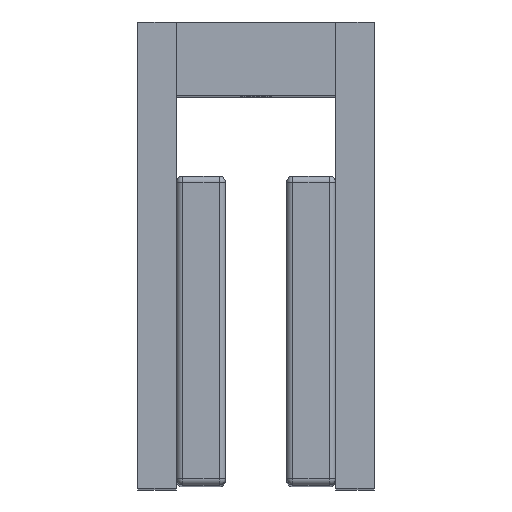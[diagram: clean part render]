
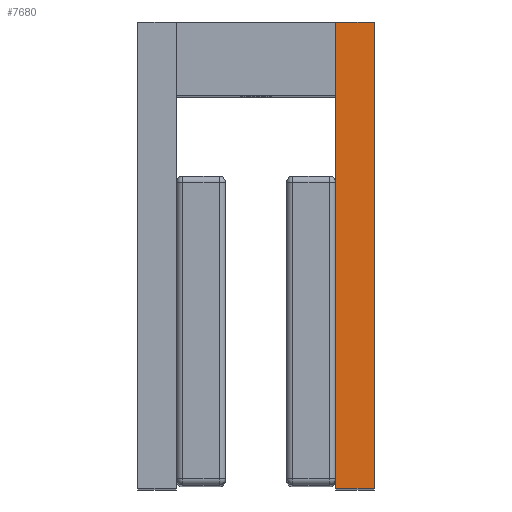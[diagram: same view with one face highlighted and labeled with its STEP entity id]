
A CAD part, top view. The second image highlights one B-rep face of the part: STEP entity #7680.
In plain terms, the highlighted planar face has unit normal (0, 0, 1).
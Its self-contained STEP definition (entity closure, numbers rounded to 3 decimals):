
#154 = CARTESIAN_POINT ( 'NONE',  ( 19.35, -70.2, 0. ) ) ;
#213 = VECTOR ( 'NONE', #9025, 1000. ) ;
#326 = DIRECTION ( 'NONE',  ( 0., -1., 0. ) ) ;
#892 = CARTESIAN_POINT ( 'NONE',  ( 13., -70.2, 0. ) ) ;
#1336 = VERTEX_POINT ( 'NONE', #7441 ) ;
#1750 = CARTESIAN_POINT ( 'NONE',  ( 13., -70.2, 0. ) ) ;
#1927 = VERTEX_POINT ( 'NONE', #892 ) ;
#2047 = VERTEX_POINT ( 'NONE', #13345 ) ;
#2625 = AXIS2_PLACEMENT_3D ( 'NONE', #154, #11797, #15481 ) ;
#2901 = EDGE_CURVE ( 'Defeatured_0_5+Defeatured_0_2+Defeatured_0_3+Defeatured_0_1', #2047, #10500, #7843, .T. ) ;
#2916 = EDGE_CURVE ( 'Defeatured_0_2+Defeatured_0_3+Defeatured_0_5+Defeatured_0_37', #2047, #8499, #10372, .T. ) ;
#3713 = EDGE_LOOP ( 'NONE', ( #9825, #12372, #13903, #4769, #12207 ) ) ;
#4032 = DIRECTION ( 'NONE',  ( 0., -1., 0. ) ) ;
#4419 = VECTOR ( 'NONE', #4032, 1000. ) ;
#4769 = ORIENTED_EDGE ( 'NONE', *, *, #2901, .F. ) ;
#6364 = FACE_OUTER_BOUND ( 'NONE', #3713, .T. ) ;
#6748 = DIRECTION ( 'NONE',  ( 0., -1., 0. ) ) ;
#6910 = CARTESIAN_POINT ( 'NONE',  ( 13., -70.2, 0. ) ) ;
#7243 = VECTOR ( 'NONE', #6748, 1000. ) ;
#7441 = CARTESIAN_POINT ( 'NONE',  ( 13., -6., 0. ) ) ;
#7680 = ADVANCED_FACE ( 'Defeatured_0_2', ( #6364 ), #9142, .F. ) ;
#7709 = LINE ( 'NONE', #10310, #213 ) ;
#7843 = LINE ( 'NONE', #12968, #4419 ) ;
#8499 = VERTEX_POINT ( 'NONE', #12801 ) ;
#9025 = DIRECTION ( 'NONE',  ( -1., 0., 0. ) ) ;
#9142 = PLANE ( 'NONE',  #2625 ) ;
#9453 = EDGE_CURVE ( 'Defeatured_0_2+Defeatured_0_0+Defeatured_0_37+Defeatured_0_1', #1336, #1927, #16031, .T. ) ;
#9825 = ORIENTED_EDGE ( 'NONE', *, *, #14035, .T. ) ;
#10310 = CARTESIAN_POINT ( 'NONE',  ( 19.35, -70.2, 0. ) ) ;
#10372 = LINE ( 'NONE', #15649, #15901 ) ;
#10500 = VERTEX_POINT ( 'NONE', #15933 ) ;
#10538 = DIRECTION ( 'NONE',  ( -1., 0., 0. ) ) ;
#11797 = DIRECTION ( 'NONE',  ( 0., 0., -1. ) ) ;
#12198 = EDGE_CURVE ( 'Defeatured_0_1+Defeatured_0_2+Defeatured_0_5+Defeatured_0_0', #10500, #1927, #7709, .T. ) ;
#12207 = ORIENTED_EDGE ( 'NONE', *, *, #2916, .T. ) ;
#12349 = VECTOR ( 'NONE', #326, 1000. ) ;
#12372 = ORIENTED_EDGE ( 'NONE', *, *, #9453, .T. ) ;
#12801 = CARTESIAN_POINT ( 'NONE',  ( 13., 6., 0. ) ) ;
#12968 = CARTESIAN_POINT ( 'NONE',  ( 19.35, -70.2, 0. ) ) ;
#13040 = LINE ( 'NONE', #1750, #12349 ) ;
#13345 = CARTESIAN_POINT ( 'NONE',  ( 19.35, 6., 0. ) ) ;
#13903 = ORIENTED_EDGE ( 'NONE', *, *, #12198, .F. ) ;
#14035 = EDGE_CURVE ( 'Defeatured_0_2+Defeatured_0_37+Defeatured_0_3+Defeatured_0_0', #8499, #1336, #13040, .T. ) ;
#15481 = DIRECTION ( 'NONE',  ( 1., 0., 0. ) ) ;
#15649 = CARTESIAN_POINT ( 'NONE',  ( 19.35, 6., 0. ) ) ;
#15901 = VECTOR ( 'NONE', #10538, 1000. ) ;
#15933 = CARTESIAN_POINT ( 'NONE',  ( 19.35, -70.2, 0. ) ) ;
#16031 = LINE ( 'NONE', #6910, #7243 ) ;
